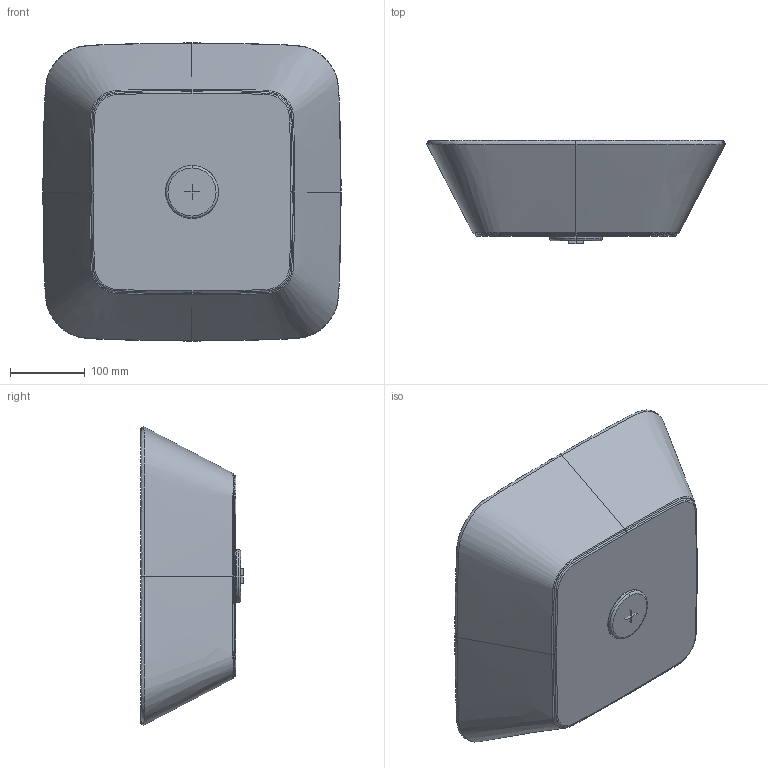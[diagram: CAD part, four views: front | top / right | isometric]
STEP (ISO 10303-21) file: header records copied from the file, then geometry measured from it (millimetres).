
FILE_DESCRIPTION((''),'2;1');
FILE_NAME('E0347_MK1_3DPL','2015-10-07T',('TotevD'),('AMERICAN STANDARD B&K'),'PRO/ENGINEER BY PARAMETRIC TECHNOLOGY CORPORATION, 2011330','PRO/ENGINEER BY PARAMETRIC TECHNOLOGY CORPORATION, 2011330','');
FILE_SCHEMA(('CONFIG_CONTROL_DESIGN'));
Length unit declared in the file: millimetre
Products named in the file (1): E0347_MK1_3DPL
Bounding box: 400.03 x 138.03 x 400.02 mm (x, y, z)
Volume: 5249665.4 mm3; surface area: 452435.1 mm2
Topology: 1 solids, 4 shells, 54 faces, 158 edges, 110 vertices
Faces by surface type: bspline 40, plane 9, cone 2, torus 2, extrusion 1
Entity records: 11161 total; most frequent: CARTESIAN_POINT 10004, ORIENTED_EDGE 304, EDGE_CURVE 158, DIRECTION 117, VERTEX_POINT 110, B_SPLINE_CURVE_WITH_KNOTS 107, EDGE_LOOP 55, FACE_OUTER_BOUND 54
